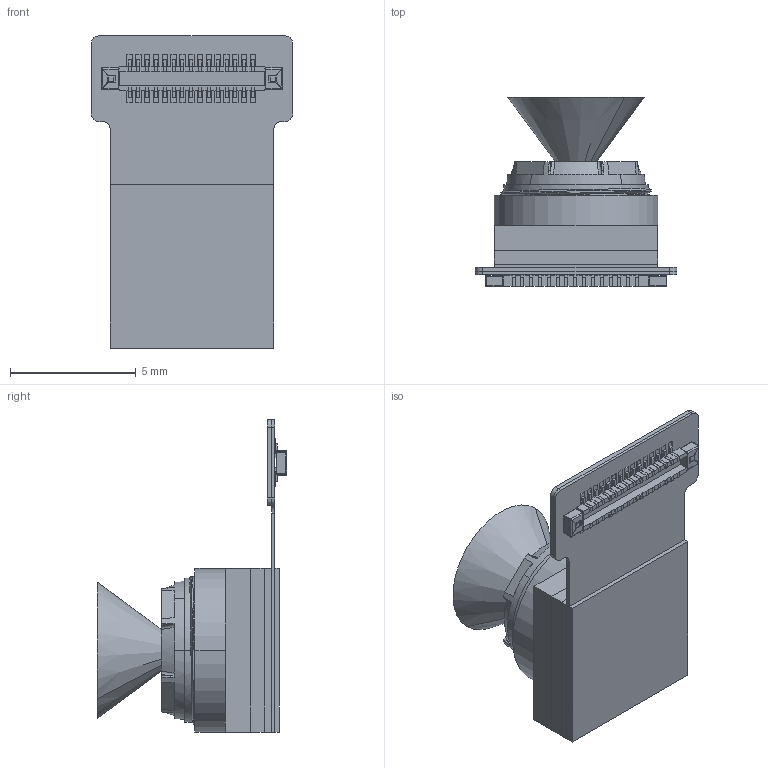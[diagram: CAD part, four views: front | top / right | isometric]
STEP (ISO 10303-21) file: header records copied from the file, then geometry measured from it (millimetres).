
FILE_DESCRIPTION(('CATIA V5 STEP Exchange'),'2;1');
FILE_NAME('C:\Users\Administrator\Desktop\ZS1416-B (VD16GZCCA) 3D FOV73° 241226.stp','2024-12-26T03:47:15+00:00',('none'),('none'),'CATIA Version 5 Release 21 GA (IN-10)','CATIA V5 STEP AP214','none');
FILE_SCHEMA(('AUTOMOTIVE_DESIGN { 1 0 10303 214 1 1 1 1 }'));
Products named in the file (23): CU1121-D_VD56G3_FO0001_ASM; CU1121-D_ASM_4_ASM; FPC_ASM_ASM_1_ASM; FPC_2; STEEL-1_1; STEEL-2_1; VD56G3_PLCC28_ASM_2_ASM; VD56G3000_ASM_8_ASM_1_ASM; 00_5_1; 00_3-58114_1; 00_7_1; 00_1_1; 00_3-62643_1; 00_3-63062_1; HOLDER_8; M5291A-00_ASM_ASM_1_ASM; MSBR-4_1; MSBR-3_1; MSBR-2_1; Copy (1) of MSBR-1_2; BM28B06-30DP_3; angle; MSBR-1_2
Assembly tree (31 placements, depth 5):
  CU1121-D_VD56G3_FO0001_ASM
    CU1121-D_ASM_4_ASM
      FPC_ASM_ASM_1_ASM
        FPC_2
        STEEL-1_1
        STEEL-2_1
      VD56G3_PLCC28_ASM_2_ASM
        VD56G3000_ASM_8_ASM_1_ASM
          00_5_1
          00_3-58114_1
          00_7_1
          00_1_1  x10
          00_3-62643_1
          00_3-63062_1
      HOLDER_8
      M5291A-00_ASM_ASM_1_ASM
        MSBR-4_1
        MSBR-3_1
        MSBR-2_1
        Copy (1) of MSBR-1_2
      BM28B06-30DP_3
      angle
        MSBR-1_2
Bounding box: 8 x 7.55 x 12.4 mm (x, y, z)
Volume: 149.9 mm3; surface area: 1069.5 mm2
Topology: 23 solids, 54 shells, 2332 faces, 5661 edges, 3725 vertices
Faces by surface type: plane 2161, cylinder 100, cone 46, bspline 10, revolution 8, torus 7
Entity records: 70717 total; most frequent: CARTESIAN_POINT 14105, ORIENTED_EDGE 10656, DIRECTION 9569, EDGE_CURVE 5329, VECTOR 4904, LINE 4904, VERTEX_POINT 3509, EDGE_LOOP 2477
